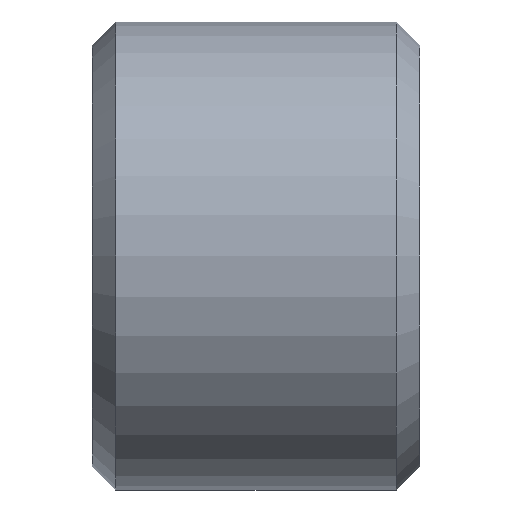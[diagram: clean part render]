
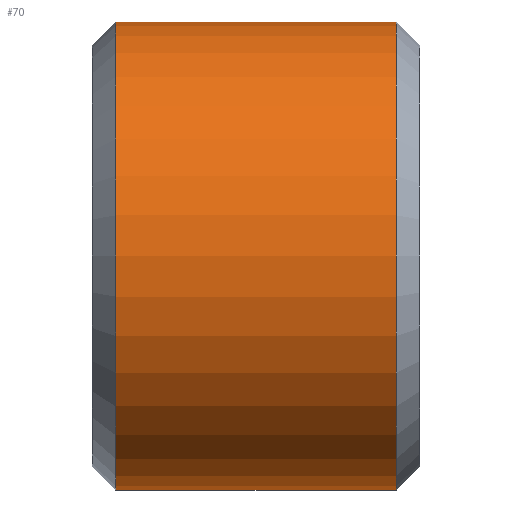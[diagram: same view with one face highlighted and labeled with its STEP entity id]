
A CAD part, front view. The second image highlights one B-rep face of the part: STEP entity #70.
In plain terms, the highlighted cylindrical face has radius 2.5 mm (diameter 5 mm), a partial arc.
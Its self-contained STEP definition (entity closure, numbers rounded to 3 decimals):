
#9 = DIRECTION ( 'NONE',  ( 0., 0., 1. ) ) ;
#18 = CYLINDRICAL_SURFACE ( 'NONE', #53, 2.5 ) ;
#20 = CARTESIAN_POINT ( 'NONE',  ( 0.25, 0., -2.5 ) ) ;
#21 = CARTESIAN_POINT ( 'NONE',  ( 0.25, 0., 0. ) ) ;
#22 = DIRECTION ( 'NONE',  ( 0., 0., 1. ) ) ;
#36 = VERTEX_POINT ( 'NONE', #20 ) ;
#37 = DIRECTION ( 'NONE',  ( -1., 0., 0. ) ) ;
#40 = VECTOR ( 'NONE', #89, 1000. ) ;
#48 = ORIENTED_EDGE ( 'NONE', *, *, #273, .T. ) ;
#52 = CARTESIAN_POINT ( 'NONE',  ( 0., 0., 0. ) ) ;
#53 = AXIS2_PLACEMENT_3D ( 'NONE', #52, #253, #306 ) ;
#61 = VERTEX_POINT ( 'NONE', #344 ) ;
#70 = ADVANCED_FACE ( 'NONE', ( #230 ), #18, .T. ) ;
#83 = CARTESIAN_POINT ( 'NONE',  ( 0., 0., 2.5 ) ) ;
#89 = DIRECTION ( 'NONE',  ( -1., 0., 0. ) ) ;
#91 = LINE ( 'NONE', #252, #40 ) ;
#97 = CARTESIAN_POINT ( 'NONE',  ( 3.25, 0., 2.5 ) ) ;
#102 = VERTEX_POINT ( 'NONE', #97 ) ;
#120 = DIRECTION ( 'NONE',  ( -1., 0., 0. ) ) ;
#125 = EDGE_CURVE ( 'NONE', #36, #61, #152, .T. ) ;
#138 = EDGE_CURVE ( 'NONE', #216, #36, #91, .T. ) ;
#150 = CARTESIAN_POINT ( 'NONE',  ( 3.25, 0., 0. ) ) ;
#152 = CIRCLE ( 'NONE', #165, 2.5 ) ;
#165 = AXIS2_PLACEMENT_3D ( 'NONE', #21, #37, #9 ) ;
#216 = VERTEX_POINT ( 'NONE', #330 ) ;
#226 = VECTOR ( 'NONE', #297, 1000. ) ;
#230 = FACE_OUTER_BOUND ( 'NONE', #338, .T. ) ;
#234 = ORIENTED_EDGE ( 'NONE', *, *, #125, .F. ) ;
#242 = AXIS2_PLACEMENT_3D ( 'NONE', #150, #120, #22 ) ;
#250 = CIRCLE ( 'NONE', #242, 2.5 ) ;
#252 = CARTESIAN_POINT ( 'NONE',  ( 0., 0., -2.5 ) ) ;
#253 = DIRECTION ( 'NONE',  ( -1., 0., 0. ) ) ;
#267 = ORIENTED_EDGE ( 'NONE', *, *, #138, .F. ) ;
#273 = EDGE_CURVE ( 'NONE', #216, #102, #250, .T. ) ;
#280 = LINE ( 'NONE', #83, #226 ) ;
#297 = DIRECTION ( 'NONE',  ( -1., 0., 0. ) ) ;
#299 = EDGE_CURVE ( 'NONE', #102, #61, #280, .T. ) ;
#306 = DIRECTION ( 'NONE',  ( 0., 0., 1. ) ) ;
#313 = ORIENTED_EDGE ( 'NONE', *, *, #299, .T. ) ;
#330 = CARTESIAN_POINT ( 'NONE',  ( 3.25, 0., -2.5 ) ) ;
#338 = EDGE_LOOP ( 'NONE', ( #267, #48, #313, #234 ) ) ;
#344 = CARTESIAN_POINT ( 'NONE',  ( 0.25, 0., 2.5 ) ) ;
